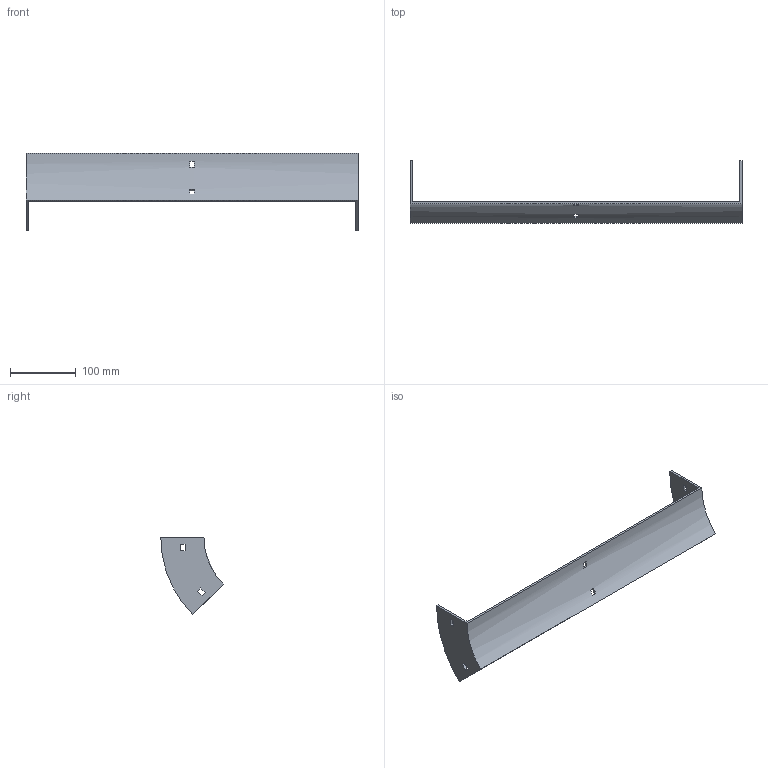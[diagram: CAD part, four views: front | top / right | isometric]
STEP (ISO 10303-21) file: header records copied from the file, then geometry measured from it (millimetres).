
FILE_DESCRIPTION (( 'STEP AP214' ), '1' );
FILE_NAME ('34B1H500.step', '2025-02-21T09:29:06', ( '' ), ( '' ), 'SwSTEP 2.0', 'SolidWorks 2023', '' );
FILE_SCHEMA (( 'AUTOMOTIVE_DESIGN' ));
Length unit declared in the file: millimetre
Products named in the file (1): 34B1H500
Bounding box: 504 x 94.79 x 117.03 mm (x, y, z)
Volume: 185419.7 mm3; surface area: 111946.4 mm2
Topology: 1 solids, 1 shells, 34 faces, 96 edges, 64 vertices
Faces by surface type: plane 30, cylinder 4
Entity records: 1143 total; most frequent: CARTESIAN_POINT 195, ORIENTED_EDGE 192, DIRECTION 182, EDGE_CURVE 96, LINE 80, VECTOR 80, VERTEX_POINT 64, AXIS2_PLACEMENT_3D 51
